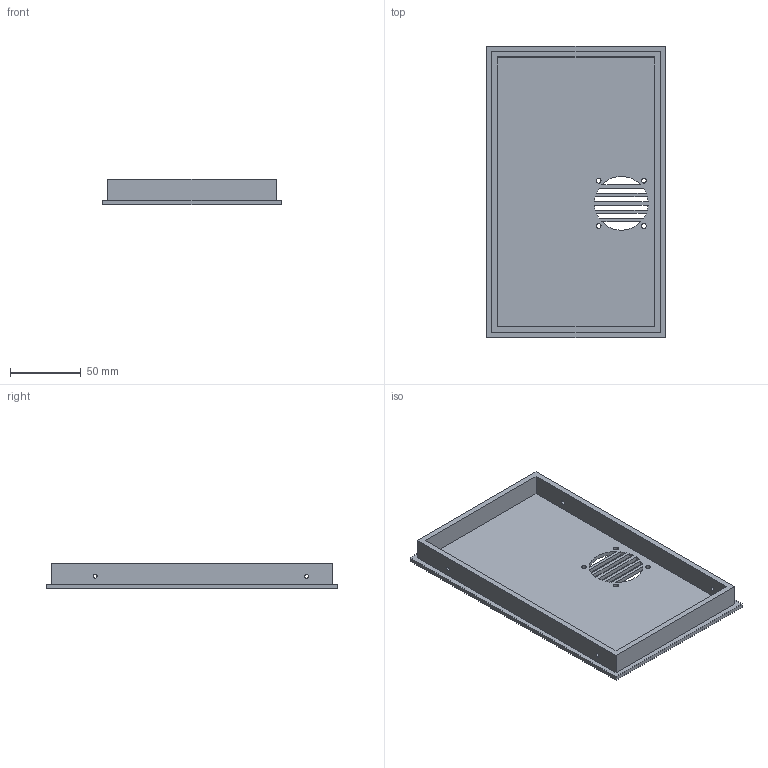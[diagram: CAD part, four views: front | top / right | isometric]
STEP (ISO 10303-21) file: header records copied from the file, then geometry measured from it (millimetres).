
FILE_DESCRIPTION(('Open CASCADE Model'),'2;1');
FILE_NAME('Open CASCADE Shape Model','2026-07-27T14:20:48',('Author'),( 'Open CASCADE'),'Open CASCADE STEP processor 7.9','Open CASCADE 7.9' ,'Unknown');
FILE_SCHEMA(('AUTOMOTIVE_DESIGN { 1 0 10303 214 1 1 1 1 }'));
Length unit declared in the file: millimetre
Products named in the file (1): Open CASCADE STEP translator 7.9 2
Bounding box: 126 x 206 x 18 mm (x, y, z)
Volume: 112649.8 mm3; surface area: 72468 mm2
Topology: 1 solids, 1 shells, 44 faces, 120 edges, 80 vertices
Faces by surface type: plane 26, cylinder 18
Full cylindrical faces by diameter (mm): 2.8 x4, 3.4 x4
Entity records: 3028 total; most frequent: CARTESIAN_POINT 609, DIRECTION 432, LINE 248, VECTOR 248, ORIENTED_EDGE 240, PCURVE 240, DEFINITIONAL_REPRESENTATION 240, EDGE_CURVE 120
